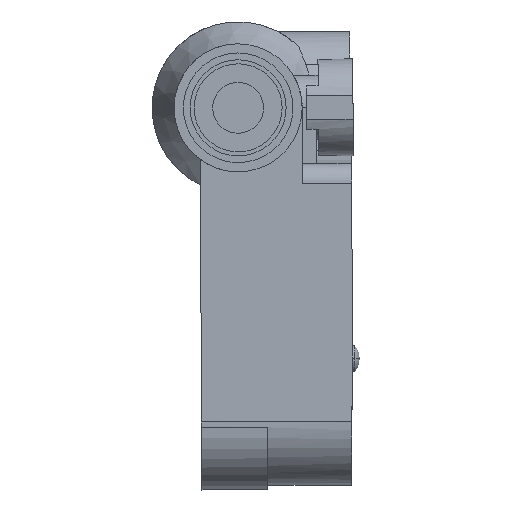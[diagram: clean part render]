
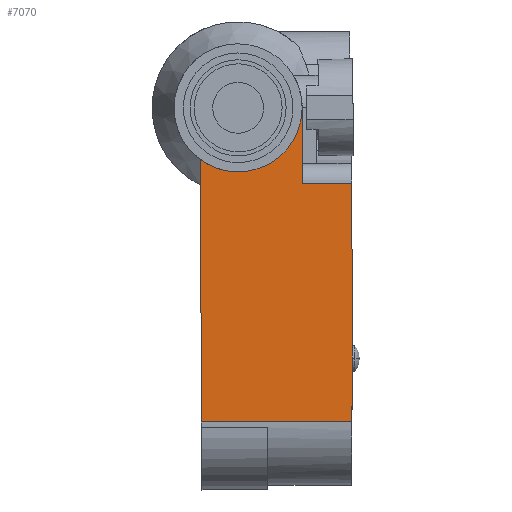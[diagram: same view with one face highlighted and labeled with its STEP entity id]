
A CAD part, left-side view. The second image highlights one B-rep face of the part: STEP entity #7070.
In plain terms, the highlighted planar face has unit normal (-1, 0, 0).
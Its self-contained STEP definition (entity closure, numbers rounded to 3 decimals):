
#5660=CARTESIAN_POINT('',(31.78,-9.5,11.5));
#5670=DIRECTION('',(0.,0.,-1.));
#5680=VECTOR('',#5670,1.);
#5690=LINE('',#5660,#5680);
#5700=CARTESIAN_POINT('',(31.78,-9.5,
14.128));
#5710=VERTEX_POINT('',#5700);
#5720=CARTESIAN_POINT('',(31.78,-9.5,
8.));
#5730=VERTEX_POINT('',#5720);
#5740=EDGE_CURVE('',#5710,#5730,#5690,.T.);
#6550=CARTESIAN_POINT('',(31.78,-36.126,-3.5));
#6560=DIRECTION('',(-1.,0.,0.));
#6570=DIRECTION('',(0.,-1.,0.));
#6580=AXIS2_PLACEMENT_3D('',#6550,#6560,#6570);
#6590=PLANE('',#6580);
#6600=CARTESIAN_POINT('',(31.78,-39.207,
-13.344));
#6610=DIRECTION('',(0.,0.,1.));
#6620=VECTOR('',#6610,1.);
#6630=LINE('',#6600,#6620);
#6640=CARTESIAN_POINT('',(31.78,-39.207,
-4.75));
#6650=VERTEX_POINT('',#6640);
#6660=CARTESIAN_POINT('',(31.78,-39.207,
14.047));
#6670=VERTEX_POINT('',#6660);
#6680=EDGE_CURVE('',#6650,#6670,#6630,.T.);
#6690=ORIENTED_EDGE('',*,*,#6680,.T.);
#6700=CARTESIAN_POINT('',(31.78,0.,
-4.75));
#6710=DIRECTION('',(0.,1.,0.));
#6720=VECTOR('',#6710,1.);
#6730=LINE('',#6700,#6720);
#6740=CARTESIAN_POINT('',(31.78,-6.437,
-4.75));
#6750=VERTEX_POINT('',#6740);
#6760=EDGE_CURVE('',#6650,#6750,#6730,.T.);
#6770=ORIENTED_EDGE('',*,*,#6760,.F.);
#6780=CARTESIAN_POINT('',(31.78,0.,0.));
#6790=DIRECTION('',(-1.,0.,0.));
#6800=DIRECTION('',(0.,-1.,0.));
#6810=AXIS2_PLACEMENT_3D('',#6780,#6790,#6800);
#6820=CIRCLE('',#6810,8.);
#6830=CARTESIAN_POINT('',(31.78,-8.,0.));
#6840=VERTEX_POINT('',#6830);
#6850=EDGE_CURVE('',#6750,#6840,#6820,.T.);
#6860=ORIENTED_EDGE('',*,*,#6850,.F.);
#6870=CARTESIAN_POINT('',(31.78,0.,8.));
#6880=VERTEX_POINT('',#6870);
#6890=EDGE_CURVE('',#6840,#6880,#6820,.T.);
#6900=ORIENTED_EDGE('',*,*,#6890,.F.);
#6910=CARTESIAN_POINT('',(31.78,0.,
8.));
#6920=DIRECTION('',(0.,-1.,0.));
#6930=VECTOR('',#6920,1.);
#6940=LINE('',#6910,#6930);
#6950=EDGE_CURVE('',#6880,#5730,#6940,.T.);
#6960=ORIENTED_EDGE('',*,*,#6950,.F.);
#6970=ORIENTED_EDGE('',*,*,#5740,.T.);
#6980=CARTESIAN_POINT('',(31.78,-18.9,-1985.85));
#6990=DIRECTION('',(1.,0.,0.));
#7000=DIRECTION('',(0.,1.,0.));
#7010=AXIS2_PLACEMENT_3D('',#6980,#6990,#7000);
#7020=CIRCLE('',#7010,2000.);
#7030=EDGE_CURVE('',#5710,#6670,#7020,.T.);
#7040=ORIENTED_EDGE('',*,*,#7030,.F.);
#7050=EDGE_LOOP('',(#7040,#6970,#6960,#6900,#6860,#6770,#6690));
#7060=FACE_OUTER_BOUND('',#7050,.T.);
#7070=ADVANCED_FACE('',(#7060),#6590,.T.);
